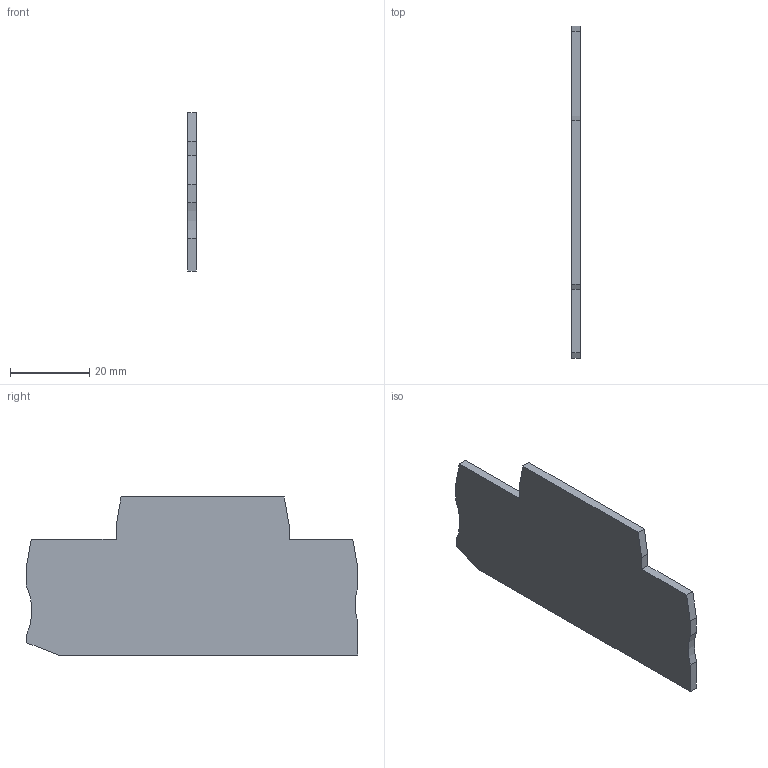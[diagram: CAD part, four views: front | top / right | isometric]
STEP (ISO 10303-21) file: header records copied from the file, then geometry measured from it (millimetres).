
FILE_DESCRIPTION(('TFLEX Exchange Step'),'2;1');
FILE_NAME('14100026_К-КНБ_4-2У-С.stp', '2025-06-24T11:24:32+03:00',('MVarava'),('Unknown organisation'),'TFLEX Exchange 2023.0','T-FLEX CAD','Unknown authorisation');
FILE_SCHEMA( ('AUTOMOTIVE_DESIGN { 1 0 10303 214 1 1 1 1 }') );
Length unit declared in the file: millimetre
Products named in the file (1): Nodes
Bounding box: 2.2 x 83.8 x 39.9 mm (x, y, z)
Volume: 6298.9 mm3; surface area: 6272.3 mm2
Topology: 1 solids, 1 shells, 241 faces, 696 edges, 464 vertices
Faces by surface type: cylinder 165, plane 76
Entity records: 8061 total; most frequent: CARTESIAN_POINT 1555, DIRECTION 1411, ORIENTED_EDGE 1392, EDGE_CURVE 696, AXIS2_PLACEMENT_3D 541, VERTEX_POINT 464, VECTOR 329, LINE 329
